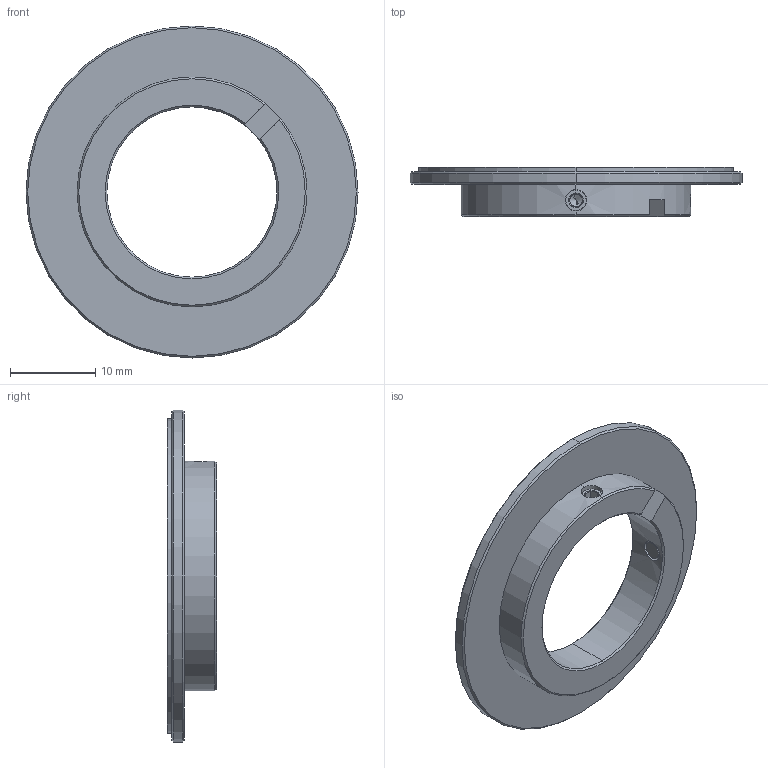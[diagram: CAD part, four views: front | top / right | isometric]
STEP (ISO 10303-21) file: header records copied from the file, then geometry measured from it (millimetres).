
FILE_DESCRIPTION (( 'STEP AP214' ), '1' );
FILE_NAME ('GRR-055-C11-ST.STEP', '2023-03-27T14:33:27', ( '' ), ( '' ), 'SwSTEP 2.0', 'SolidWorks 2021', '' );
FILE_SCHEMA (( 'AUTOMOTIVE_DESIGN' ));
Length unit declared in the file: millimetre
Products named in the file (1): GRR-055-C11-ST
Bounding box: 39 x 5.8 x 39 mm (x, y, z)
Volume: 2483.6 mm3; surface area: 3691.5 mm2
Topology: 4 solids, 4 shells, 102 faces, 222 edges, 128 vertices
Faces by surface type: plane 40, cone 36, cylinder 26
Entity records: 4089 total; most frequent: CARTESIAN_POINT 673, DIRECTION 492, ORIENTED_EDGE 436, EDGE_CURVE 218, AXIS2_PLACEMENT_3D 199, VERTEX_POINT 128, EDGE_LOOP 114, UNCERTAINTY_MEASURE_WITH_UNIT 108
